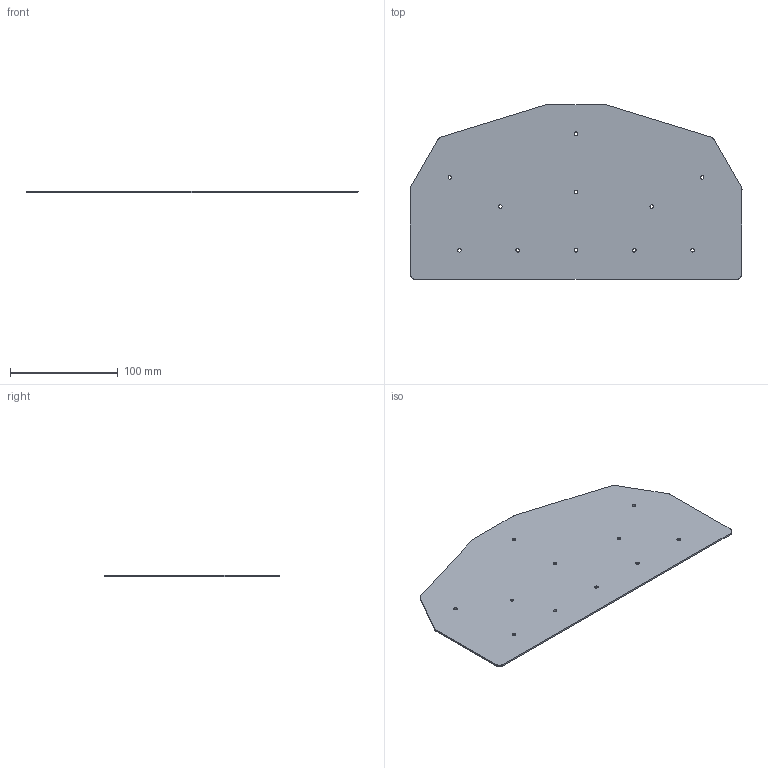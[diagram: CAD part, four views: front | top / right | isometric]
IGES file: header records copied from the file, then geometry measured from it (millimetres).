
Start section: SolidWorks IGES file using analytic representation for surfaces
Global section: file name: C:\Working\Gusset Convert\DRP-002-0014-02.igs; native system: SolidWorks 2010; preprocessor: SolidWorks 2010; author: mbush2; date: 100624.090520; units: inch
Bounding box: 307.45 x 161.93 x 1.52 mm (x, y, z)
Surface area: 88874.5 mm2 (no closed solid volume)
Topology: 0 solids, 0 shells, 40 faces, 580 edges, 580 vertices
Faces by surface type: revolution 30, bspline 10
